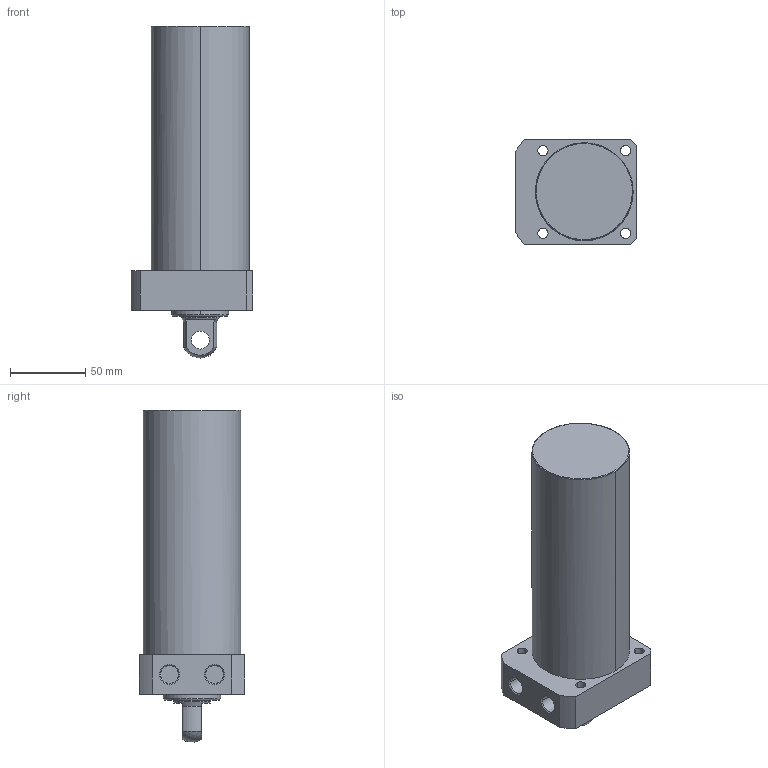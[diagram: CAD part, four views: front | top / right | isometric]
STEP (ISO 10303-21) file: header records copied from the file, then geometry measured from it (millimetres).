
FILE_DESCRIPTION((' '),'2;1');
FILE_NAME( 'TLLR-065CP-130.STEP.stp', '2025-10-24T16:35:04', (' '), ('--- Datakit www.datakit.com---'), ' Datakit CrossCadWare V2024.1 Dec 21 2023', 'Mastercam 2025', ' ');
FILE_SCHEMA(('AUTOMOTIVE_DESIGN { 1 0 10303 214 1 1 1 1 }'));
Length unit declared in the file: millimetre
Products named in the file (1): TLLR-065CP-130
Bounding box: 81 x 70 x 220.92 mm (x, y, z)
Volume: 688514.9 mm3; surface area: 57649.2 mm2
Topology: 1 solids, 1 shells, 57 faces, 164 edges, 116 vertices
Faces by surface type: cylinder 28, plane 18, cone 8, torus 2, sphere 1
Entity records: 2006 total; most frequent: DIRECTION 378, CARTESIAN_POINT 350, ORIENTED_EDGE 328, EDGE_CURVE 164, AXIS2_PLACEMENT_3D 160, VERTEX_POINT 116, CIRCLE 102, EDGE_LOOP 74
